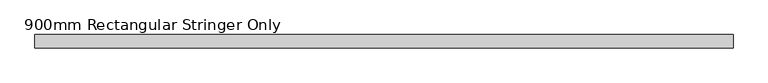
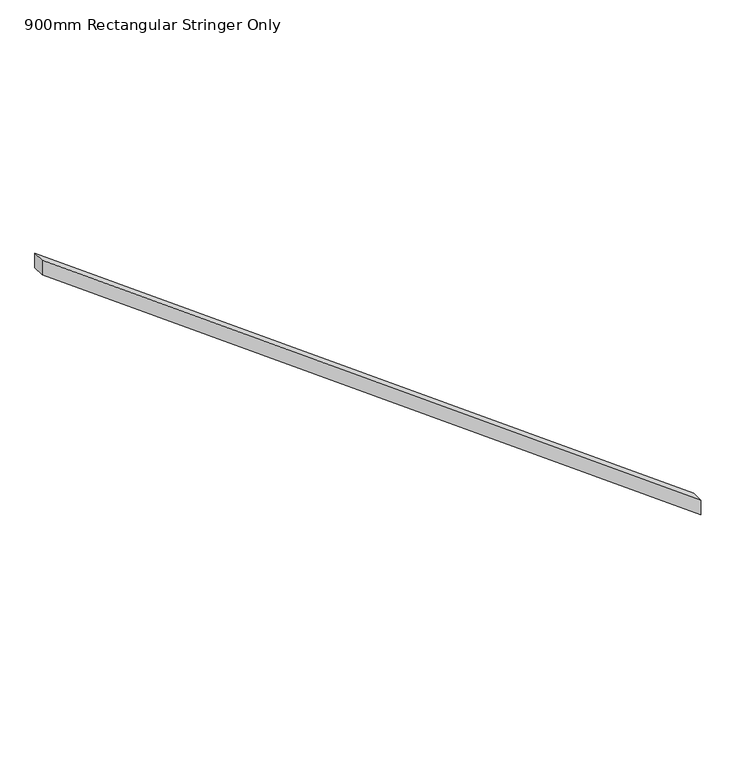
"""IFC4 building model written with IfcOpenShell, lengths in millimetres: railing geometry, 900mm Rectangular Stringer Only."""

from ifc_helpers import new_model, si_unit, frame, origin, place, context, project, spatial, polyline, outline, extrude, source, transform, mapped, element, save


def railing_900mm_rectangular_stringer_only_1bdd2e87(model_context):
    return source(origin(), model_context, "Body", "SweptSolid", [
        extrude(outline(polyline([(1777.7275946, 3301.7294053), (1839.8, 3301.7294053), (3795.6, 643.1588227), (3733.5275946, 643.1588227), (1777.7275946, 3301.7294053)])), frame((0.0, 2381.0038353, 0.0), z_axis=(0.0, 1.0, 0.0), x_axis=(0.0, 0.0, 1.0)), (0.0, 0.0, 1.0), 50.0),
    ])


if __name__ == "__main__":
    model = new_model("IFC4")
    model_context = context("Model", 3, world=origin())
    ifc_project = project(units=[si_unit("LENGTHUNIT", "METRE", prefix="MILLI")], contexts=[model_context])
    site = spatial("IfcSite", under=ifc_project)
    building = spatial("IfcBuilding", under=site)
    placement = place(None, origin())
    railing_900mm_rectangular_stringer_only_shape = railing_900mm_rectangular_stringer_only_1bdd2e87(model_context)
    element("IfcRailing", 1, ObjectType="900mm Rectangular Stringer Only", at=placement, inside=building, context=model_context, shape_type="MappedRepresentation", body=[
        mapped(railing_900mm_rectangular_stringer_only_shape, transform((0.0, 0.0, 0.0), x_axis=(1.0, 0.0, 0.0), y_axis=(0.0, 1.0, 0.0), z_axis=(0.0, 0.0, 1.0))),
    ])
    save(model, "model.ifc")
